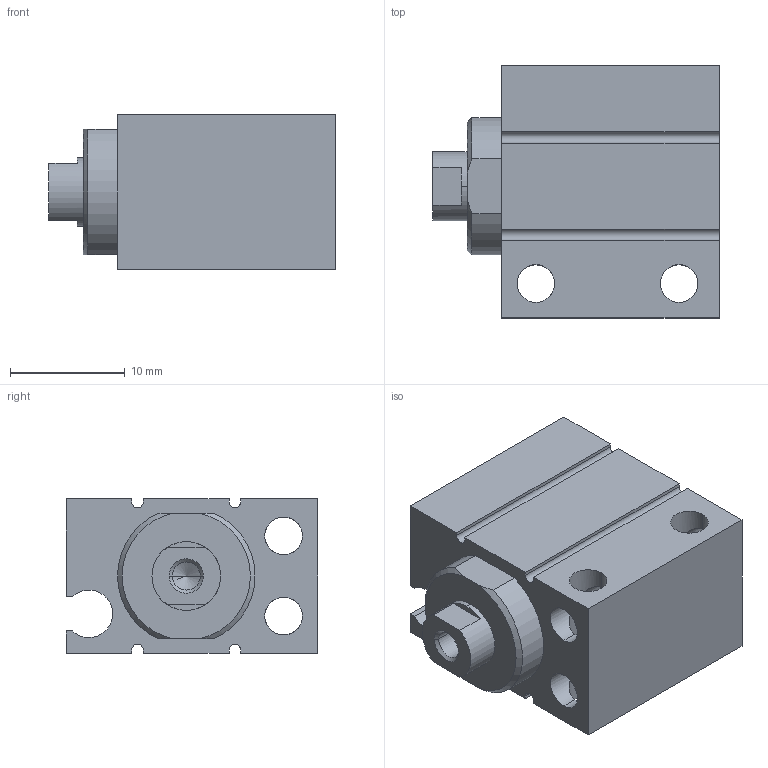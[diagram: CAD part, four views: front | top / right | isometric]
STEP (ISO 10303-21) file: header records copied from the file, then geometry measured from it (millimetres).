
FILE_DESCRIPTION (( 'STEP AP203' ), '1' );
FILE_NAME ('CLJB10-6.STEP', '2020-07-30T18:46:37', ( '' ), ( '' ), 'SwSTEP 2.0', 'SolidWorks 2019', '' );
FILE_SCHEMA (( 'CONFIG_CONTROL_DESIGN' ));
Length unit declared in the file: millimetre
Products named in the file (1): CLJB10-6
Bounding box: 25 x 22 x 13.5 mm (x, y, z)
Volume: 4905.1 mm3; surface area: 3749.3 mm2
Topology: 2 solids, 2 shells, 96 faces, 252 edges, 153 vertices
Faces by surface type: cylinder 49, plane 33, cone 14
Entity records: 2995 total; most frequent: CARTESIAN_POINT 604, ORIENTED_EDGE 492, DIRECTION 482, EDGE_CURVE 246, AXIS2_PLACEMENT_3D 175, VERTEX_POINT 153, VECTOR 132, LINE 132
